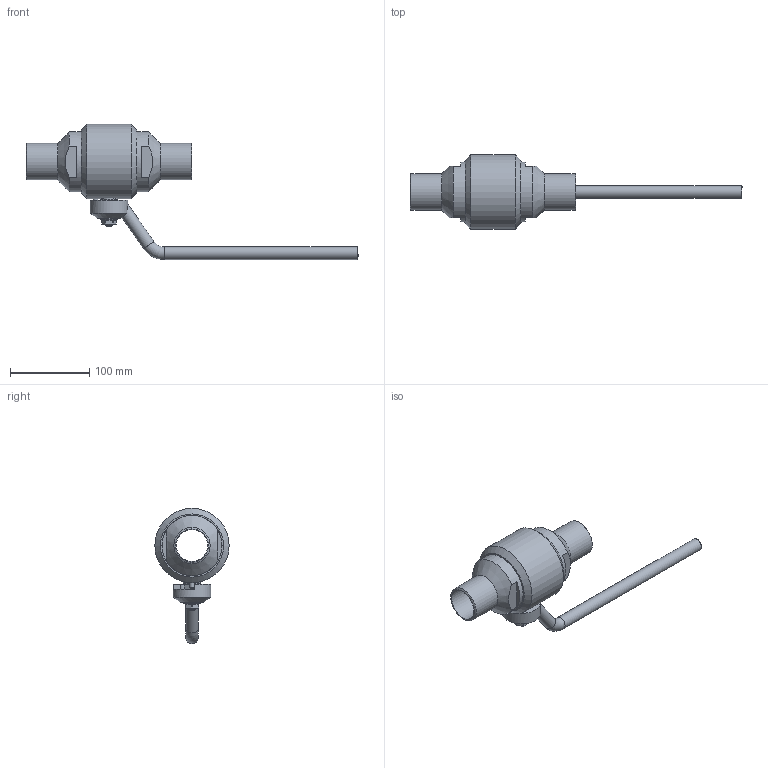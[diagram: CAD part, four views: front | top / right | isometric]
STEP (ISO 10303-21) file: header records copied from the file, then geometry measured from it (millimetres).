
FILE_DESCRIPTION(('STEP AP203'), '1');
FILE_NAME('ZARDP 040.100.40.P.stp', '2013-12-06T07:11:04', ('User'), ('Computer'), 'ASCON STEP Converter 1.3', 'Kompas 3D', '');
FILE_SCHEMA(('CONFIG_CONTROL_DESIGN','SUPPORT_RESOURCE_SCHEMA'));
Length unit declared in the file: millimetre
Products named in the file (1): 132
Bounding box: 420.01 x 94 x 171 mm (x, y, z)
Volume: 573368 mm3; surface area: 111829.3 mm2
Topology: 1 solids, 7 shells, 158 faces, 351 edges, 220 vertices
Faces by surface type: plane 81, cylinder 48, cone 21, torus 8
Full cylindrical faces by diameter (mm): 6 x2, 10 x2, 16 x3, 16.1 x1, 21.8 x1, 22 x2, 24.3 x1, 24.5 x1, 40 x2, 46 x2, 48 x1, 68.4 x1, 76 x2, 94 x1
Entity records: 5723 total; most frequent: CARTESIAN_POINT 2100, DIRECTION 763, ORIENTED_EDGE 702, EDGE_CURVE 351, AXIS2_PLACEMENT_3D 298, VERTEX_POINT 220, EDGE_LOOP 179, LINE 167
